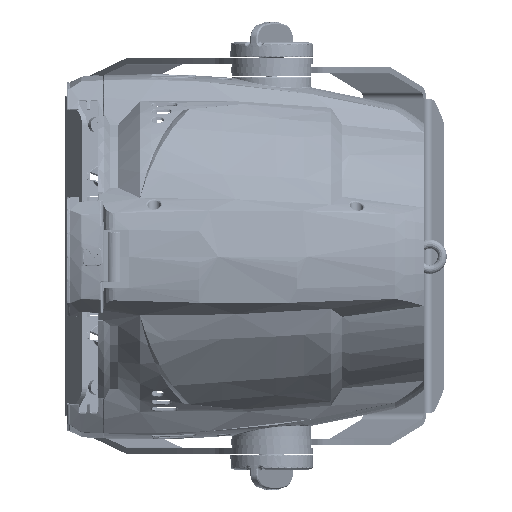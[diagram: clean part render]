
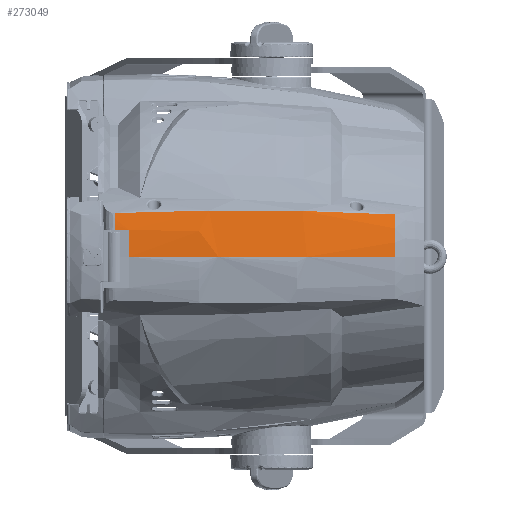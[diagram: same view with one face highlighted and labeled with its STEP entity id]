
A CAD part, left-side view. The second image highlights one B-rep face of the part: STEP entity #273049.
In plain terms, the highlighted free-form (B-spline) face has degree [3, 2] with [5, 3] control points.
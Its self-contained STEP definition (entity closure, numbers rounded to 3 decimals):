
#271314=CARTESIAN_POINT('',(-118.478,28.983,18.));
#271315=VERTEX_POINT('',#271314);
#271322=CARTESIAN_POINT('',(-118.267,38.307,18.));
#271323=VERTEX_POINT('',#271322);
#271324=CARTESIAN_POINT('',(-118.267,38.307,18.));
#271325=CARTESIAN_POINT('',(-118.404,33.642,18.));
#271326=CARTESIAN_POINT('',(-118.478,28.983,18.));
#271327=B_SPLINE_CURVE_WITH_KNOTS('',2,(#271324,#271325,#271326),.UNSPECIFIED.,.F.,.F.,(3,3),(0.,1.),.UNSPECIFIED.);
#271328=EDGE_CURVE('',#271323,#271315,#271327,.T.);
#271376=CARTESIAN_POINT('',(-119.815,28.669,-0.));
#271377=VERTEX_POINT('',#271376);
#271384=CARTESIAN_POINT('',(-118.478,28.983,18.));
#271385=CARTESIAN_POINT('',(-119.368,28.879,12.033));
#271386=CARTESIAN_POINT('',(-119.813,28.774,6.033));
#271387=CARTESIAN_POINT('',(-119.815,28.669,-0.));
#271388=B_SPLINE_CURVE_WITH_KNOTS('',3,(#271384,#271385,#271386,#271387),.UNSPECIFIED.,.F.,.F.,(4,4),(0.,0.018),.UNSPECIFIED.);
#271389=EDGE_CURVE('',#271315,#271377,#271388,.T.);
#271431=CARTESIAN_POINT('',(-99.502,-149.337,-0.));
#271432=VERTEX_POINT('',#271431);
#271440=CARTESIAN_POINT('',(-119.815,28.669,-0.));
#271441=CARTESIAN_POINT('',(-121.194,-61.299,-0.));
#271442=CARTESIAN_POINT('',(-99.502,-149.337,-0.));
#271443=B_SPLINE_CURVE_WITH_KNOTS('',2,(#271440,#271441,#271442),.UNSPECIFIED.,.F.,.F.,(3,3),(0.,1.),.UNSPECIFIED.);
#271444=EDGE_CURVE('',#271377,#271432,#271443,.T.);
#271473=CARTESIAN_POINT('',(-95.484,-149.337,28.354));
#271474=VERTEX_POINT('',#271473);
#271482=CARTESIAN_POINT('',(2.541,-149.337,-0.));
#271483=DIRECTION('',(0.,1.,0.));
#271484=DIRECTION('',(1.,0.,-0.));
#271485=AXIS2_PLACEMENT_3D('',#271482,#271483,#271484);
#271486=CIRCLE('',#271485,102.043);
#271487=EDGE_CURVE('',#271432,#271474,#271486,.T.);
#272748=CARTESIAN_POINT('',(-116.031,38.307,29.313));
#272749=VERTEX_POINT('',#272748);
#272750=CARTESIAN_POINT('',(2.541,38.307,-0.));
#272751=DIRECTION('',(-0.,-1.,-0.));
#272752=DIRECTION('',(1.,0.,-0.));
#272753=AXIS2_PLACEMENT_3D('',#272750,#272751,#272752);
#272754=CIRCLE('',#272753,122.141);
#272755=EDGE_CURVE('',#272749,#271323,#272754,.T.);
#272992=CARTESIAN_POINT('',(-119.601,38.307,-0.));
#272993=CARTESIAN_POINT('',(-119.601,38.307,17.31));
#272994=CARTESIAN_POINT('',(-114.791,38.307,33.938));
#272995=CARTESIAN_POINT('',(-120.148,19.44,-0.));
#272996=CARTESIAN_POINT('',(-120.148,19.44,17.388));
#272997=CARTESIAN_POINT('',(-115.317,19.44,34.09));
#272998=CARTESIAN_POINT('',(-119.439,-43.609,-0.));
#272999=CARTESIAN_POINT('',(-119.439,-43.609,17.287));
#273000=CARTESIAN_POINT('',(-114.636,-43.609,33.893));
#273001=CARTESIAN_POINT('',(-110.194,-105.944,-0.));
#273002=CARTESIAN_POINT('',(-110.194,-105.944,15.977));
#273003=CARTESIAN_POINT('',(-105.755,-105.944,31.325));
#273004=CARTESIAN_POINT('',(-99.502,-149.337,-0.));
#273005=CARTESIAN_POINT('',(-99.502,-149.337,14.462));
#273006=CARTESIAN_POINT('',(-95.484,-149.337,28.354));
#273007=(BOUNDED_SURFACE()
B_SPLINE_SURFACE(3,2,((#272992,#272993,#272994),(#272995,#272996,#272997),(#272998,#272999,#273000),(#273001,#273002,#273003),(#273004,#273005,#273006)),.UNSPECIFIED.,.F.,.F.,.U.)
B_SPLINE_SURFACE_WITH_KNOTS((4,1,4),(3,3),(0.01,0.302,0.991),(3.142,3.399),.UNSPECIFIED.)
GEOMETRIC_REPRESENTATION_ITEM()
RATIONAL_B_SPLINE_SURFACE(((0.75,0.75,0.765),(0.75,0.75,0.765),(0.75,0.75,0.765),(0.75,0.75,0.765),(0.75,0.75,0.765)))
REPRESENTATION_ITEM('')
SURFACE()
);
#273008=CARTESIAN_POINT('',(-95.484,-149.337,28.354));
#273009=CARTESIAN_POINT('',(-97.312,-141.67,28.833));
#273010=CARTESIAN_POINT('',(-99.028,-133.98,29.236));
#273011=CARTESIAN_POINT('',(-100.629,-126.266,29.572));
#273012=CARTESIAN_POINT('',(-102.23,-118.552,29.908));
#273013=CARTESIAN_POINT('',(-103.716,-110.813,30.175));
#273014=CARTESIAN_POINT('',(-105.082,-103.05,30.384));
#273015=CARTESIAN_POINT('',(-106.448,-95.287,30.594));
#273016=CARTESIAN_POINT('',(-107.694,-87.499,30.748));
#273017=CARTESIAN_POINT('',(-108.814,-79.686,30.86));
#273018=CARTESIAN_POINT('',(-109.374,-75.779,30.916));
#273019=CARTESIAN_POINT('',(-109.902,-71.867,30.961));
#273020=CARTESIAN_POINT('',(-110.399,-67.952,30.996));
#273021=CARTESIAN_POINT('',(-110.895,-64.037,31.03));
#273022=CARTESIAN_POINT('',(-111.359,-60.12,31.054));
#273023=CARTESIAN_POINT('',(-111.792,-56.199,31.068));
#273024=CARTESIAN_POINT('',(-112.657,-48.357,31.095));
#273025=CARTESIAN_POINT('',(-113.392,-40.502,31.085));
#273026=CARTESIAN_POINT('',(-113.999,-32.635,31.033));
#273027=CARTESIAN_POINT('',(-114.303,-28.702,31.007));
#273028=CARTESIAN_POINT('',(-114.575,-24.765,30.97));
#273029=CARTESIAN_POINT('',(-114.815,-20.825,30.921));
#273030=CARTESIAN_POINT('',(-115.055,-16.885,30.873));
#273031=CARTESIAN_POINT('',(-115.263,-12.943,30.812));
#273032=CARTESIAN_POINT('',(-115.439,-9.002,30.74));
#273033=CARTESIAN_POINT('',(-115.791,-1.12,30.595));
#273034=CARTESIAN_POINT('',(-116.017,6.764,30.403));
#273035=CARTESIAN_POINT('',(-116.115,14.648,30.164));
#273036=CARTESIAN_POINT('',(-116.214,22.533,29.925));
#273037=CARTESIAN_POINT('',(-116.186,30.419,29.64));
#273038=CARTESIAN_POINT('',(-116.031,38.307,29.313));
#273039=B_SPLINE_CURVE_WITH_KNOTS('',3,(#273008,#273009,#273010,#273011,#273012,#273013,#273014,#273015,#273016,#273017,#273018,#273019,#273020,#273021,#273022,#273023,#273024,#273025,#273026,#273027,#273028,#273029,#273030,#273031,#273032,#273033,
#273034,#273035,#273036,#273037,#273038),.UNSPECIFIED.,.F.,.F.,(4,3,3,3,3,3,3,3,3,3,4),(0.,0.024,0.047,0.071,0.083,0.095,0.118,0.13,0.142,0.166,0.189),.UNSPECIFIED.);
#273040=EDGE_CURVE('',#271474,#272749,#273039,.T.);
#273041=ORIENTED_EDGE('',*,*,#273040,.T.);
#273042=ORIENTED_EDGE('',*,*,#272755,.T.);
#273043=ORIENTED_EDGE('',*,*,#271328,.T.);
#273044=ORIENTED_EDGE('',*,*,#271389,.T.);
#273045=ORIENTED_EDGE('',*,*,#271444,.T.);
#273046=ORIENTED_EDGE('',*,*,#271487,.T.);
#273047=EDGE_LOOP('',(#273041,#273042,#273043,#273044,#273045,#273046));
#273048=FACE_BOUND('',#273047,.T.);
#273049=ADVANCED_FACE('',(#273048),#273007,.T.);
